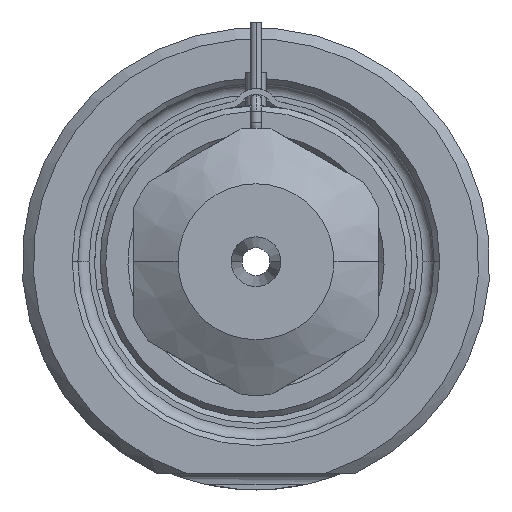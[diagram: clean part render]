
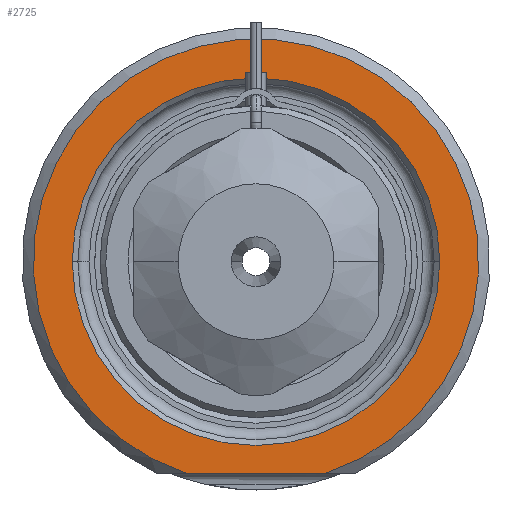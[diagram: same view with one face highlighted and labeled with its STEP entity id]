
A CAD part, front view. The second image highlights one B-rep face of the part: STEP entity #2725.
In plain terms, the highlighted planar face has unit normal (0, -1, 0).
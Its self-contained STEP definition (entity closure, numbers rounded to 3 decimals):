
#1=DIRECTION('',(1.,0.,0.));
#2=VECTOR('',#1,12.49);
#3=CARTESIAN_POINT('',(-6.245,0.,-19.));
#4=LINE('',#3,#2);
#5=CARTESIAN_POINT('',(0.,0.,0.));
#6=DIRECTION('',(0.,1.,0.));
#7=DIRECTION('',(-1.,0.,0.));
#8=AXIS2_PLACEMENT_3D('',#5,#6,#7);
#10=CARTESIAN_POINT('',(0.,0.,0.));
#11=DIRECTION('',(0.,1.,0.));
#12=DIRECTION('',(1.,0.,0.));
#13=AXIS2_PLACEMENT_3D('',#10,#11,#12);
#119=CARTESIAN_POINT('',(0.,0.,0.));
#120=DIRECTION('',(0.,-1.,0.));
#121=DIRECTION('',(0.312,0.,-0.95));
#122=AXIS2_PLACEMENT_3D('',#119,#120,#121);
#2274=CARTESIAN_POINT('',(-16.5,0.,0.));
#2275=CARTESIAN_POINT('',(16.5,0.,0.));
#2276=VERTEX_POINT('',#2274);
#2277=VERTEX_POINT('',#2275);
#2328=CARTESIAN_POINT('',(-6.245,0.,-19.));
#2329=CARTESIAN_POINT('',(6.245,0.,-19.));
#2330=VERTEX_POINT('',#2328);
#2331=VERTEX_POINT('',#2329);
#2708=CARTESIAN_POINT('',(0.,0.,0.));
#2709=DIRECTION('',(0.,-1.,0.));
#2710=DIRECTION('',(1.,0.,0.));
#2711=AXIS2_PLACEMENT_3D('',#2708,#2709,#2710);
#2712=PLANE('',#2711);
#2714=ORIENTED_EDGE('',*,*,#2713,.F.);
#2716=ORIENTED_EDGE('',*,*,#2715,.F.);
#2717=EDGE_LOOP('',(#2714,#2716));
#2718=FACE_OUTER_BOUND('',#2717,.F.);
#2720=ORIENTED_EDGE('',*,*,#2719,.F.);
#2722=ORIENTED_EDGE('',*,*,#2721,.F.);
#2723=EDGE_LOOP('',(#2720,#2722));
#2724=FACE_BOUND('',#2723,.F.);
#2725=ADVANCED_FACE('',(#2718,#2724),#2712,.T.);
#9=CIRCLE('',#8,16.5);
#14=CIRCLE('',#13,16.5);
#123=CIRCLE('',#122,20.);
#2713=EDGE_CURVE('',#2330,#2331,#4,.T.);
#2715=EDGE_CURVE('',#2331,#2330,#123,.T.);
#2719=EDGE_CURVE('',#2276,#2277,#9,.T.);
#2721=EDGE_CURVE('',#2277,#2276,#14,.T.);
